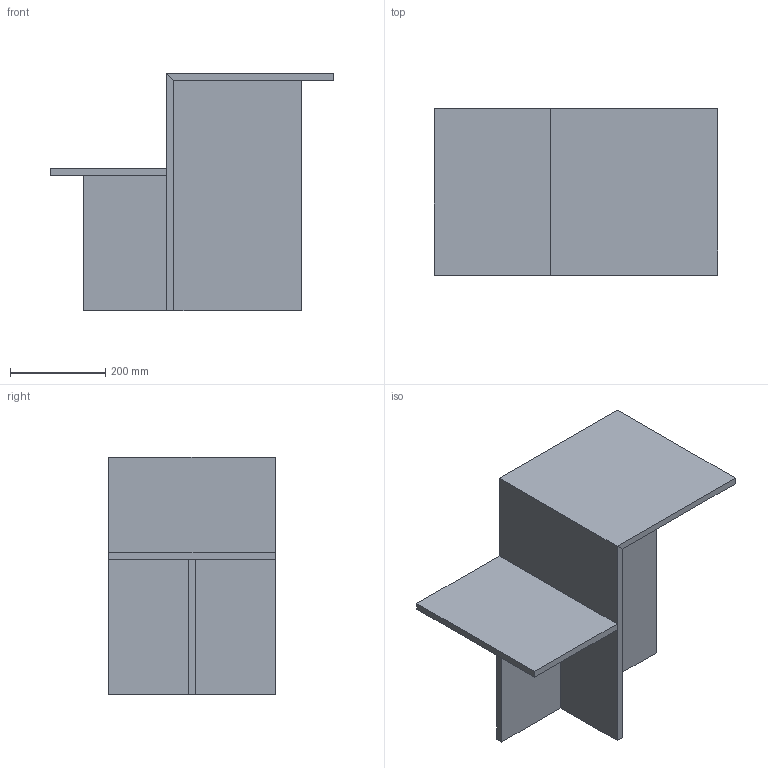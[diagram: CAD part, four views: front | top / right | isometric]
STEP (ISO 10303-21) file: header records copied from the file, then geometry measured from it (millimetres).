
FILE_DESCRIPTION(/* description */ (''),/* implementation_level */ '2;1');
FILE_NAME(/* name */ 'DWHFFH~C',/* time_stamp */ '2019-03-20T09:52:37+01:00',/* author */ (''),/* organization */ (''),/* preprocessor_version */ 'ST-DEVELOPER v16.5',/* originating_system */ '',/* authorisation */ '');
FILE_SCHEMA (('AUTOMOTIVE_DESIGN'));
Length unit declared in the file: millimetre
Products named in the file (1): Document
Bounding box: 595.88 x 350 x 500 mm (x, y, z)
Volume: 8364070.5 mm3; surface area: 1221428.6 mm2
Topology: 5 solids, 5 shells, 30 faces, 60 edges, 40 vertices
Faces by surface type: plane 23, bspline 7
Entity records: 737 total; most frequent: CARTESIAN_POINT 213, ORIENTED_EDGE 120, EDGE_CURVE 60, B_SPLINE_CURVE_WITH_KNOTS 60, VERTEX_POINT 40, ADVANCED_FACE 30, FACE_OUTER_BOUND 30, EDGE_LOOP 30
